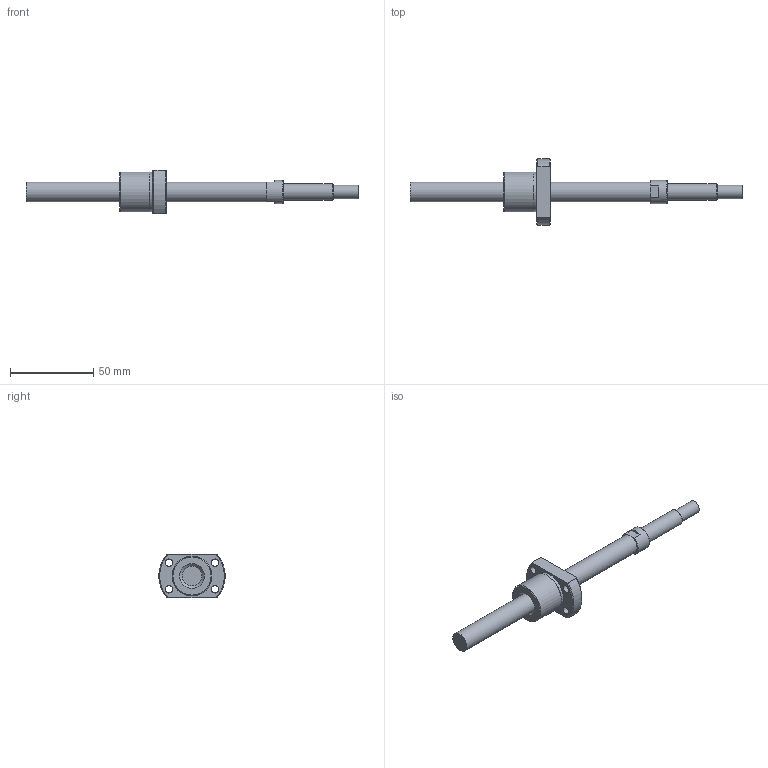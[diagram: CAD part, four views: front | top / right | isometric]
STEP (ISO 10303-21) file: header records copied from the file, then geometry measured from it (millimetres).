
FILE_DESCRIPTION(/* description */ ('STEP AP214'),/* implementation_level */ '2;1');
FILE_NAME(/* name */ 'NSGF1202Z-141R200C3-0-T-S-T-A-(56.5-S)',/* time_stamp */ '2026-08-24T20:16:52+02:00',/* author */ ('License CC BY-ND 4.0'),/* organization */ ('CADENAS'),/* preprocessor_version */ 'ST-DEVELOPER v20',/* originating_system */ 'PARTsolutions',/* authorisation */ ' ');
FILE_SCHEMA (('AUTOMOTIVE_DESIGN {1 0 10303 214 3 1 1}'));
Length unit declared in the file: millimetre
Products named in the file (3): NSGF1202Z-141R200C3-0-T-S-T-A-(56.5-S); NSG1202Z-141R20028_(T-S_T-A_2)-2; NSGF1202Z-1
Assembly tree (2 placements, depth 2):
  NSGF1202Z-141R200C3-0-T-S-T-A-(56.5-S)
    NSG1202Z-141R20028_(T-S_T-A_2)-2
    NSGF1202Z-1
Bounding box: 200 x 39.88 x 26 mm (x, y, z)
Volume: 33278.1 mm3; surface area: 13057.9 mm2
Topology: 2 solids, 2 shells, 40 faces, 88 edges, 57 vertices
Faces by surface type: plane 17, cylinder 14, cone 8, torus 1
Full cylindrical faces by diameter (mm): 4.5 x4, 8 x1, 10 x1, 12 x2, 14 x1, 17 x1, 23.7 x1, 24 x1
Entity records: 1095 total; most frequent: CARTESIAN_POINT 187, DIRECTION 186, ORIENTED_EDGE 134, AXIS2_PLACEMENT_3D 84, EDGE_LOOP 72, FACE_BOUND 72, EDGE_CURVE 67, VERTEX_POINT 53
